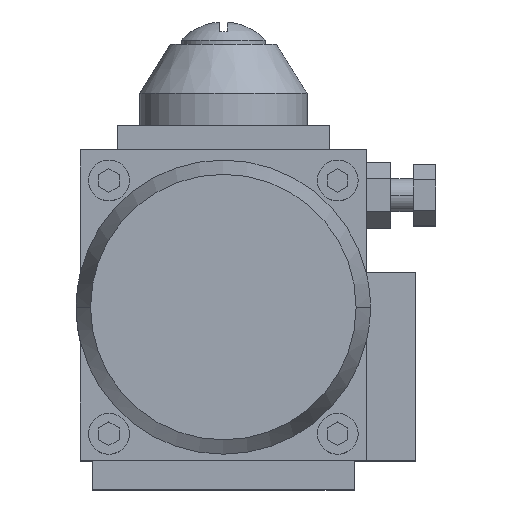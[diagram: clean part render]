
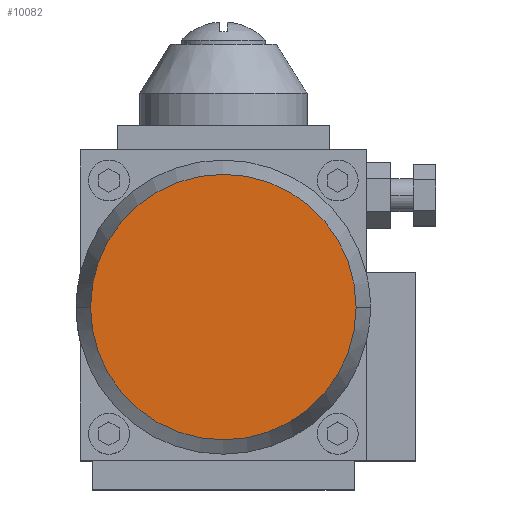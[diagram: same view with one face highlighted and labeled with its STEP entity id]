
A CAD part, top view. The second image highlights one B-rep face of the part: STEP entity #10082.
In plain terms, the highlighted planar face has unit normal (0, 0, 1).
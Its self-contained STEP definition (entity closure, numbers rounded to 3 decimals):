
#9120=CARTESIAN_POINT('',(0.,0.,85.5));
#9121=DIRECTION('',(0.,0.,-1.));
#9122=DIRECTION('',(-1.,0.,0.));
#9123=AXIS2_PLACEMENT_3D('',#9120,#9121,#9122);
#9125=CARTESIAN_POINT('',(0.,0.,85.5));
#9126=DIRECTION('',(0.,0.,-1.));
#9127=DIRECTION('',(1.,0.,0.));
#9128=AXIS2_PLACEMENT_3D('',#9125,#9126,#9127);
#9532=CARTESIAN_POINT('',(-32.5,0.,85.5));
#9533=CARTESIAN_POINT('',(32.5,0.,85.5));
#9534=VERTEX_POINT('',#9532);
#9535=VERTEX_POINT('',#9533);
#10073=CARTESIAN_POINT('',(0.,0.,85.5));
#10074=DIRECTION('',(0.,0.,1.));
#10075=DIRECTION('',(1.,0.,0.));
#10076=AXIS2_PLACEMENT_3D('',#10073,#10074,#10075);
#10077=PLANE('',#10076);
#10078=ORIENTED_EDGE('',*,*,#9887,.T.);
#10079=ORIENTED_EDGE('',*,*,#10066,.T.);
#10080=EDGE_LOOP('',(#10078,#10079));
#10081=FACE_OUTER_BOUND('',#10080,.F.);
#10082=ADVANCED_FACE('',(#10081),#10077,.T.);
#9124=CIRCLE('',#9123,32.5);
#9129=CIRCLE('',#9128,32.5);
#9887=EDGE_CURVE('',#9534,#9535,#9124,.T.);
#10066=EDGE_CURVE('',#9535,#9534,#9129,.T.);
